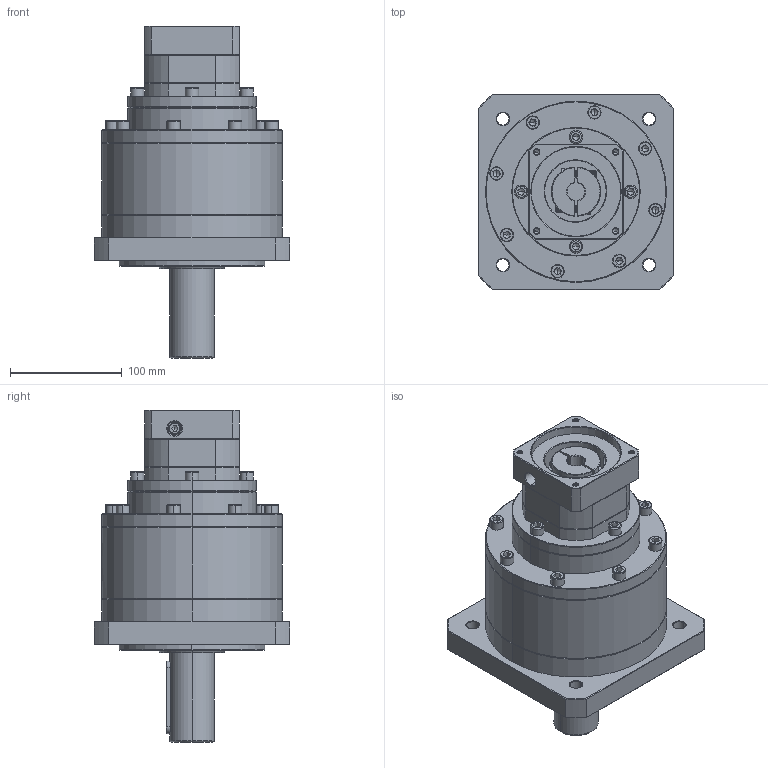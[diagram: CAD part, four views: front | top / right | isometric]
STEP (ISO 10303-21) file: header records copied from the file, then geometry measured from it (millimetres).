
FILE_DESCRIPTION (( 'STEP AP214' ), '1' );
FILE_NAME ('ZF160A-D40-L3-P2-16-80-100-M6.step', '2023-09-03T08:15:36', ( '' ), ( '' ), 'SwSTEP 2.0', 'SolidWorks 2016', '' );
FILE_SCHEMA (( 'AUTOMOTIVE_DESIGN' ));
Length unit declared in the file: millimetre
Products named in the file (1): ZF160A-D40-L3-P2-16-80-100-M6
Bounding box: 175 x 175 x 297.2 mm (x, y, z)
Volume: 3397687.8 mm3; surface area: 227402.6 mm2
Topology: 5 solids, 6 shells, 2418 faces, 6385 edges, 4088 vertices
Faces by surface type: plane 1149, cylinder 467, bspline 397, cone 344, torus 61
Entity records: 129960 total; most frequent: CARTESIAN_POINT 48719, ORIENTED_EDGE 12662, DIRECTION 9623, EDGE_CURVE 6331, VERTEX_POINT 4088, VECTOR 3379, LINE 3379, AXIS2_PLACEMENT_3D 3122
